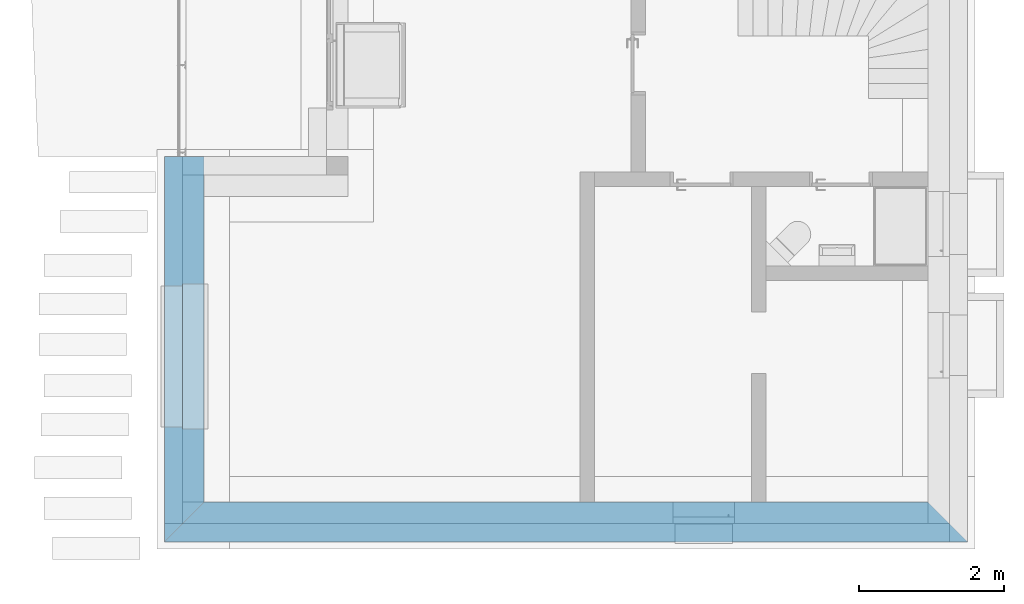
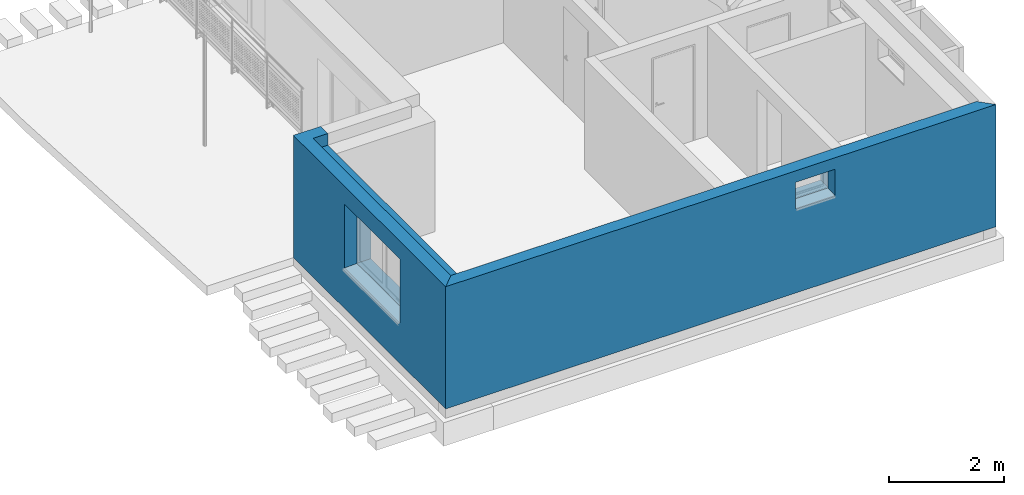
# One storey, part 14 of 22: 2 walls.
"""IFC2X3 building model written with IfcOpenShell, lengths in metres."""

from ifc_helpers import new_model, entity, si_unit, converted_unit, derived_unit, direction, frame, origin, place, context, subcontext, project, spatial, faceted_brep, material, layer, layer_set, type_object, element, save


model = new_model("IFC2X3")

# Units and contexts
model_context = context("Model", 3, precision=1e-05, world=origin(), true_north=direction((6.123233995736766e-17, 1.0)))
body_context = subcontext(model_context, "Body", "Model", "MODEL_VIEW")
ifc_project = project(units=[si_unit("LENGTHUNIT", "METRE"), si_unit("AREAUNIT", "SQUARE_METRE"), si_unit("VOLUMEUNIT", "CUBIC_METRE"), si_unit("POWERUNIT", "WATT"), derived_unit("USERDEFINED", [(si_unit("MASSUNIT", "GRAM", prefix="KILO"), 1), (si_unit("TIMEUNIT", "SECOND"), -3)]), derived_unit("THERMALRESISTANCEUNIT", [(si_unit("MASSUNIT", "GRAM", prefix="KILO"), -1), (si_unit("TIMEUNIT", "SECOND"), 3), (si_unit("THERMODYNAMICTEMPERATUREUNIT", "KELVIN"), 1)]), derived_unit("USERDEFINED", [(si_unit("MASSUNIT", "GRAM", prefix="KILO"), 1), (si_unit("TIMEUNIT", "SECOND"), -2), (si_unit("THERMODYNAMICTEMPERATUREUNIT", "KELVIN"), -1)]), derived_unit("THERMALTRANSMITTANCEUNIT", [(si_unit("MASSUNIT", "GRAM", prefix="KILO"), 1), (si_unit("TIMEUNIT", "SECOND"), -3), (si_unit("THERMODYNAMICTEMPERATUREUNIT", "KELVIN"), -1)]), converted_unit("PLANEANGLEUNIT", "DEGREE", entity("IfcPlaneAngleMeasure", 0.017453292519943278), si_unit("PLANEANGLEUNIT", "RADIAN"), dimensions=[0, 0, 0, 0, 0, 0, 0]), derived_unit("MOMENTOFINERTIAUNIT", [(si_unit("LENGTHUNIT", "METRE"), 4)])], contexts=[model_context])

# Site, building, storey
site_placement = place(None, origin())
site = spatial("IfcSite", under=ifc_project, at=site_placement, Name="Default", CompositionType="ELEMENT")
building_placement = place(site_placement, origin())
building = spatial("IfcBuilding", under=site, at=building_placement, CompositionType="ELEMENT")
storey_placement = place(building_placement, origin())
storey = spatial("IfcBuildingStorey", under=building, at=storey_placement, Name="Untergeschoss", CompositionType="ELEMENT", Elevation=0.0)

# Walls
ifc_material_1 = material(Name="Dämmung - hart")
ifc_layer_1 = layer(ifc_material_1, 0.24999999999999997)
ifc_material_2 = material(Name="Mauerwerk - Ziegel")
ifc_layer_2 = layer(ifc_material_2, 0.29999999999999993)
ifc_layer_set = layer_set([ifc_layer_1, ifc_layer_2], Name="Basiswand:Ziegel+WD hart 300+250")
wall_type = type_object("IfcWallType", Name="Basiswand:Ziegel+WD hart 300+250", PredefinedType="STANDARD", material=ifc_layer_set)
wall_1_placement = place(storey_placement, frame((38.62672000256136, 15.567272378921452, 0.0), z_axis=(0.0, 0.0, 1.0), x_axis=(-1.0, 0.0, 0.0)))
element("IfcWall", 1, at=wall_1_placement, inside=storey, type_object=wall_type, Name="Basiswand:Ziegel+WD hart 300+250", ObjectType="Basiswand:Ziegel+WD hart 300+250", context=body_context, shape_type="Brep", body=[
    faceted_brep([(0.5499999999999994, -0.27500000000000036, 0.0), (2.782965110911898, -0.27500000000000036, 0.0), (2.9829651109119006, -0.27500000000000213, 0.0), (5.142965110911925, -0.27500000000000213, 0.0), (5.342965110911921, -0.27500000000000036, 0.0), (10.52587875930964, -0.27500000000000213, 0.0), (10.525878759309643, -0.27500000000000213, 2.35), (5.342965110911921, -0.27500000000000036, 2.35), (5.142965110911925, -0.27500000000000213, 2.35), (4.062965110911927, -0.27500000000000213, 2.35), (4.062965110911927, -0.27500000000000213, 1.786278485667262), (3.212965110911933, -0.27500000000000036, 1.786278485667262), (3.212965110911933, -0.27500000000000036, 2.35), (2.9829651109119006, -0.27500000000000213, 2.35), (2.782965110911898, -0.27500000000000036, 2.35), (0.5499999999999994, -0.27500000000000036, 2.35), (11.075878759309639, 0.2749999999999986, 0.0), (0.0, 0.27500000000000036, 0.0), (0.0, 0.27500000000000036, 2.6), (11.075878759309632, 0.2749999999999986, 2.6), (3.2429651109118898, 0.27500000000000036, 2.356278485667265), (3.2429651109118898, 0.27500000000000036, 1.7962784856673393), (4.032965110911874, 0.2749999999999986, 1.7962784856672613), (4.032965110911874, 0.2749999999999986, 2.356278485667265), (0.2500000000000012, 0.025000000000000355, 2.6), (10.82587875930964, 0.02500000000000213, 2.6), (0.2500000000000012, 0.024999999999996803, 2.35), (10.82587875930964, 0.024999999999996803, 2.35), (4.062965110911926, 0.025000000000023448, 2.35), (4.062965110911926, 0.025000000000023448, 1.786278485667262), (3.212965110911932, 0.025000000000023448, 1.786278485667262), (3.212965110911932, 0.025000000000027, 2.35), (3.2429651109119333, 0.025000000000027, 2.3562784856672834), (4.032965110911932, 0.025000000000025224, 2.3562784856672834), (4.032965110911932, 0.025000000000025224, 1.806278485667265), (3.2429651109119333, 0.025000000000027, 1.8062784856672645)], [[[0, 1, 2, 3, 4, 5, 6, 7, 8, 9, 10, 11, 12, 13, 14, 15]], [[16, 17, 18, 19], [20, 21, 22, 23]], [[5, 4, 3, 2, 1, 0, 17, 16]], [[19, 18, 24, 25]], [[18, 17, 0, 15, 26, 24]], [[5, 16, 19, 25, 27, 6]], [[27, 28, 9, 8, 7, 6]], [[29, 30, 11, 10]], [[29, 10, 9, 28]], [[11, 30, 31, 12]], [[30, 29, 28, 27, 25, 24, 26, 31], [32, 33, 34, 35]], [[21, 20, 32, 35]], [[35, 34, 22, 21]], [[22, 34, 33, 23]], [[33, 32, 20, 23]], [[31, 26, 15, 14, 13, 12]]]),
])
wall_2_placement = place(storey_placement, frame((27.825841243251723, 15.292272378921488, 0.0), z_axis=(0.0, 0.0, 1.0), x_axis=(0.0, 1.0, 0.0)))
element("IfcWall", 2, at=wall_2_placement, inside=storey, type_object=wall_type, Name="Basiswand:Ziegel+WD hart 300+250", ObjectType="Basiswand:Ziegel+WD hart 300+250", context=body_context, shape_type="Brep", body=[
    faceted_brep([(0.5500000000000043, -0.2750000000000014, 0.0), (4.760000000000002, -0.27500000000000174, 0.0), (5.310000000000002, -0.2750000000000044, 0.0), (5.309999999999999, -0.2750000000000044, 2.6), (5.060000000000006, -0.2750000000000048, 2.5999999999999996), (5.060000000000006, -0.2750000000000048, 2.35), (4.760000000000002, -0.27500000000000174, 2.35), (0.5500000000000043, -0.2750000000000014, 2.35), (1.5549999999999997, -0.2749999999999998, 2.2499999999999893), (3.554999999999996, -0.2750000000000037, 2.2499999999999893), (3.554999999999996, -0.2750000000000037, 0.85), (1.5549999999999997, -0.2749999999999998, 0.85), (5.3100000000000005, 0.2749999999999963, 0.0), (0.0, 0.2749999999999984, 0.0), (0.0, 0.2749999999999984, 2.6), (5.3100000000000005, 0.2749999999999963, 2.6), (3.5250000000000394, 0.274999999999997, 0.8607407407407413), (3.5250000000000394, 0.274999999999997, 2.219999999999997), (1.585000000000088, 0.27500000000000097, 2.219999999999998), (1.585000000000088, 0.27500000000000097, 0.8607407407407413), (0.25, 0.024999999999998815, 2.6), (5.060000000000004, 0.024999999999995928, 2.6), (0.2500000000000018, 0.02499999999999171, 2.35), (5.060000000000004, 0.024999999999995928, 2.35), (1.5550000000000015, 0.025000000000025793, 2.2499999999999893), (3.5550000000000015, 0.02500000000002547, 2.2499999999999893), (3.5550000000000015, 0.02500000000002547, 0.85), (1.5550000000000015, 0.025000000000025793, 0.85), (3.524999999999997, 0.025000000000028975, 2.2200000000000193), (3.524999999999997, 0.025000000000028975, 0.8700000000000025), (1.584999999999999, 0.025000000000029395, 0.8700000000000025), (1.584999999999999, 0.025000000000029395, 2.2200000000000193)], [[[0, 1, 2, 3, 4, 5, 6, 7], [8, 9, 10, 11]], [[12, 13, 14, 15], [16, 17, 18, 19]], [[2, 1, 0, 13, 12]], [[15, 14, 20, 21, 4, 3]], [[14, 13, 0, 7, 22, 20]], [[3, 2, 12, 15]], [[23, 22, 7, 6, 5]], [[22, 23, 21, 20]], [[21, 23, 5, 4]], [[24, 25, 9, 8]], [[26, 27, 11, 10]], [[24, 8, 11, 27]], [[9, 25, 26, 10]], [[25, 24, 27, 26], [28, 29, 30, 31]], [[29, 28, 17, 16]], [[30, 29, 16, 19]], [[31, 30, 19, 18]], [[28, 31, 18, 17]]]),
])

save(model, "model.ifc")
